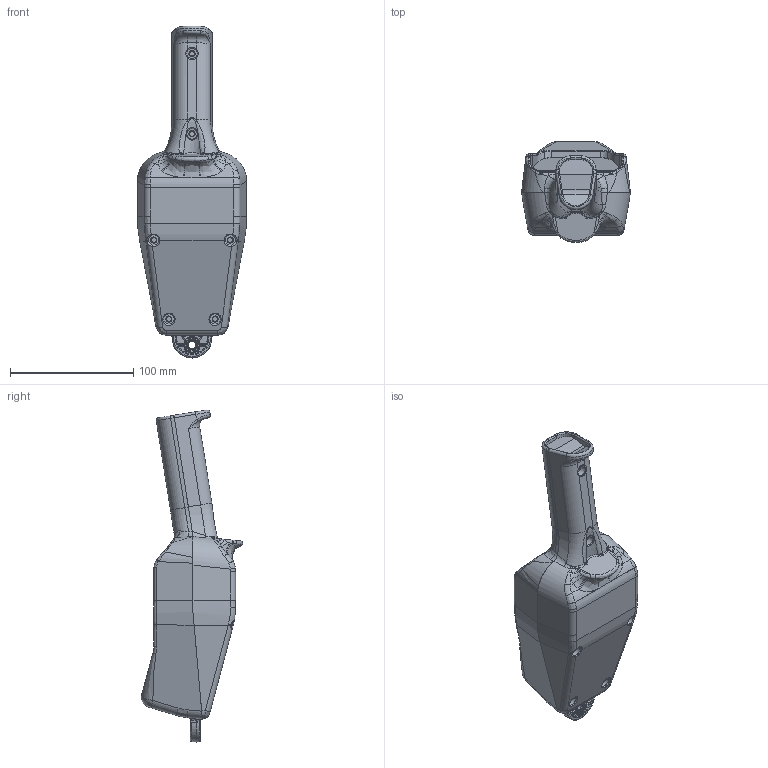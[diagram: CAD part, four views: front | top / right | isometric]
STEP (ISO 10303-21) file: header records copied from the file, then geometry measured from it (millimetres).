
FILE_DESCRIPTION((''),'2;1');
FILE_NAME('800FC_ENCLOSURE_ASM','2009-06-10T',('jqtang'),('Rockwell Automation'),'PRO/ENGINEER BY PARAMETRIC TECHNOLOGY CORPORATION, 2005110','PRO/ENGINEER BY PARAMETRIC TECHNOLOGY CORPORATION, 2005110','');
FILE_SCHEMA(('CONFIG_CONTROL_DESIGN'));
Length unit declared in the file: millimetre
Products named in the file (3): 800FC_COVER; 800FC_BASE; 800FC_ENCLOSURE_ASM
Assembly tree (2 placements, depth 2):
  800FC_ENCLOSURE_ASM
    800FC_COVER
    800FC_BASE
Bounding box: 88.3 x 81.96 x 268.9 mm (x, y, z)
Volume: 197713.1 mm3; surface area: 117557.2 mm2
Topology: 2 solids, 2 shells, 1157 faces, 2695 edges, 1577 vertices
Faces by surface type: bspline 397, cylinder 311, plane 224, torus 92, sphere 68, cone 65
Entity records: 49711 total; most frequent: CARTESIAN_POINT 26080, ORIENTED_EDGE 5390, DIRECTION 4300, EDGE_CURVE 2695, AXIS2_PLACEMENT_3D 1766, VERTEX_POINT 1577, EDGE_LOOP 1214, FACE_OUTER_BOUND 1157
